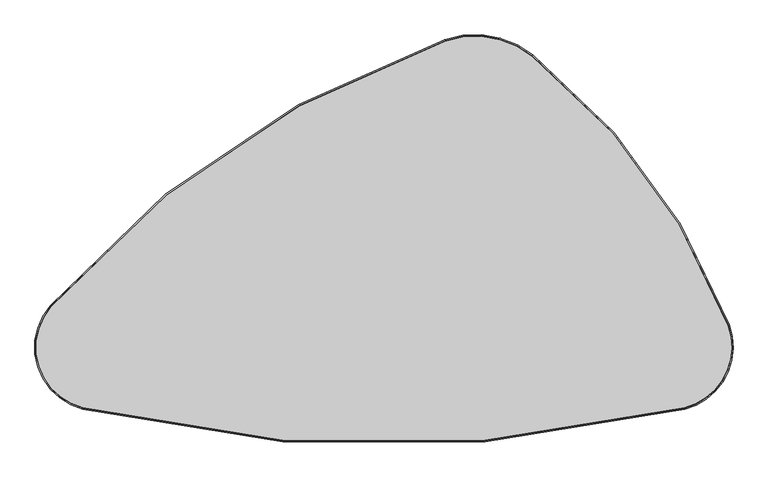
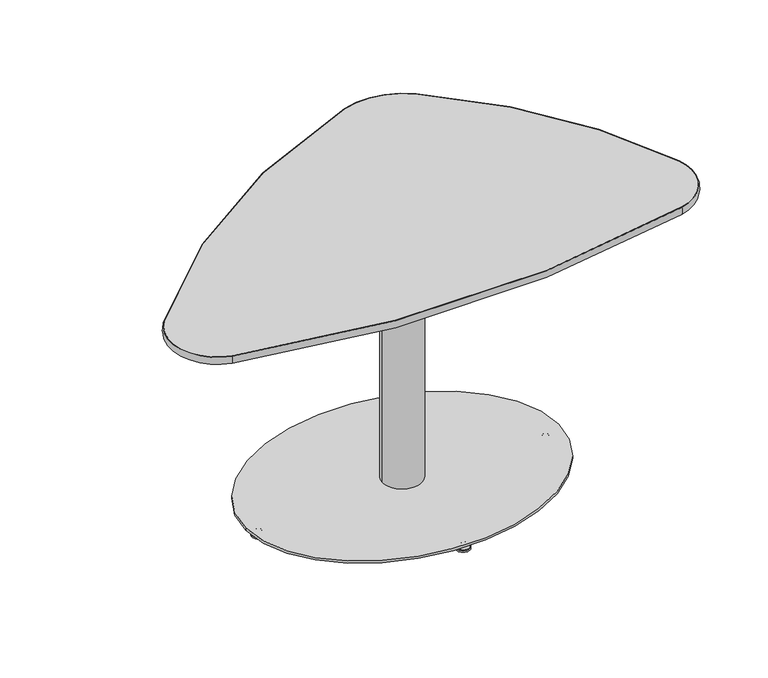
"""IFC4 building model written with IfcOpenShell, lengths in millimetres: furniture geometry, SmithSystem_AM_Table_Education_Flowform_LearnLounge_OffsetTriangle : NoPower."""

from ifc_helpers import new_model, si_unit, point, frame, frame_2d, origin, origin_2d, place, context, project, spatial, polyline, circle_curve, ellipse_curve, trimmed, segment, composite_curve, outline, extrude, faceted_brep, source, transform, mapped, element, save
from ifc_brep_helpers import plane_surface, cylinder_surface, revolved_surface, extruded_surface, advanced_brep


def furniture_8fbb2c6f(model_context):
    return source(origin(), model_context, "Body", "SolidModel", [
        advanced_brep(
        [(668.593477, -87.8228536, 696.5415682), (584.584586, -247.3030544, 696.5415682), (584.584586, -247.3030544, 715.5915682), (668.593477, -87.8228536, 715.5915682), (669.5646222, -87.4587262, 715.5915682), (584.8335504, -248.3098953, 715.5915682), (584.8335504, -248.3098953, 696.5415682), (669.5646222, -87.4587262, 696.5415682), (288.0644203, 436.0870968, 696.5415682), (288.0644203, 436.0870968, 715.5915682), (288.7110571, 436.8980054, 715.5915682), (288.7110571, 436.8980054, 696.5415682), (119.672035, 465.305891, 696.5415682), (119.672035, 465.305891, 715.5915682), (119.3363841, 466.2872423, 715.5915682), (119.3363841, 466.2872423, 696.5415682), (-646.768384, -51.1270329, 696.5415682), (-646.768384, -51.1270329, 715.5915682), (-647.5518849, -50.4474461, 715.5915682), (-647.5518849, -50.4474461, 696.5415682), (-584.5874259, -247.3035965, 696.5415682), (-584.5874259, -247.3035965, 715.5915682), (-584.8363894, -248.3104376, 715.5915682), (-584.8363894, -248.3104376, 696.5415682)],
        [
            (0, 1, circle_curve(frame((555.6233734, -130.1805943, 696.5415682), z_axis=(0.0, 0.0, -1.0), x_axis=(0.24004320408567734, -0.9707622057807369, 0.0)), 120.65)),
            (1, 2),
            (2, 3, circle_curve(frame((555.6233734, -130.1805943, 715.5915682), z_axis=(0.0, 0.0, 1.0), x_axis=(0.24004320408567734, -0.9707622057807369, 0.0)), 120.65)),
            (3, 0),
            (4, 5, circle_curve(frame((555.6233734, -130.1805943, 715.5915682), z_axis=(0.0, 0.0, -1.0), x_axis=(0.24004320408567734, -0.9707622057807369, 0.0)), 121.6871653)),
            (5, 6, circle_curve(frame((579.659921, -227.3871456, 706.0665682), z_axis=(0.9707622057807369, 0.2400432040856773, 0.0), x_axis=(-0.2400432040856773, 0.9707622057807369, 0.0)), 23.563818)),
            (6, 7, circle_curve(frame((555.6233734, -130.1805943, 696.5415682), z_axis=(0.0, 0.0, 1.0), x_axis=(0.24004320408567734, -0.9707622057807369, 0.0)), 121.6871653)),
            (7, 4, circle_curve(frame((649.3836493, -95.0255106, 706.0665682), z_axis=(0.3510794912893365, -0.9363456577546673, 0.0), x_axis=(-0.9363456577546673, -0.3510794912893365, 0.0)), 23.563818)),
            (8, 0, circle_curve(frame((-470.2027839, -514.8104822, 696.5415682), z_axis=(0.0, 0.0, -1.0), x_axis=(0.9363456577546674, 0.35107949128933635, 0.0)), 1216.2135334)),
            (3, 9, circle_curve(frame((-470.2027839, -514.8104822, 715.5915682), z_axis=(0.0, 0.0, 1.0), x_axis=(0.9363456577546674, 0.35107949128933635, 0.0)), 1216.2135334)),
            (9, 8),
            (10, 4, circle_curve(frame((-470.2027839, -514.8104822, 715.5915682), z_axis=(0.0, 0.0, -1.0), x_axis=(0.9363456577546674, 0.35107949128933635, 0.0)), 1217.2506987)),
            (7, 11, circle_curve(frame((-470.2027839, -514.8104822, 696.5415682), z_axis=(0.0, 0.0, 1.0), x_axis=(0.9363456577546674, 0.35107949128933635, 0.0)), 1217.2506987)),
            (11, 10, circle_curve(frame((275.2735613, 420.0468451, 706.0665682), z_axis=(0.7818508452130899, -0.6234655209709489, 0.0), x_axis=(-0.6234655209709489, -0.7818508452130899, 0.0)), 23.563818)),
            (12, 8, circle_curve(frame((177.2122507, 297.0740165, 696.5415682), z_axis=(0.0, 0.0, -1.0), x_axis=(0.6234655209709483, 0.7818508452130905, 0.0)), 177.8)),
            (9, 13, circle_curve(frame((177.2122507, 297.0740165, 715.5915682), z_axis=(0.0, 0.0, 1.0), x_axis=(0.6234655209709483, 0.7818508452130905, 0.0)), 177.8)),
            (13, 12),
            (14, 10, circle_curve(frame((177.2122507, 297.0740165, 715.5915682), z_axis=(0.0, 0.0, -1.0), x_axis=(0.6234655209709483, 0.7818508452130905, 0.0)), 178.8371653)),
            (11, 15, circle_curve(frame((177.2122507, 297.0740165, 696.5415682), z_axis=(0.0, 0.0, 1.0), x_axis=(0.6234655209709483, 0.7818508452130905, 0.0)), 178.8371653)),
            (15, 14, circle_curve(frame((126.3114069, 445.8941809, 706.0665682), z_axis=(0.9461860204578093, 0.3236232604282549, 0.0), x_axis=(0.3236232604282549, -0.9461860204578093, 0.0)), 23.563818)),
            (16, 12, circle_curve(frame((694.0971801, -1214.1563375, 696.5415682), z_axis=(0.0, 0.0, -1.0), x_axis=(-0.3236232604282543, 0.9461860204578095, 0.0)), 1774.9810208)),
            (13, 17, circle_curve(frame((694.0971801, -1214.1563375, 715.5915682), z_axis=(0.0, 0.0, 1.0), x_axis=(-0.3236232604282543, 0.9461860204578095, 0.0)), 1774.9810208)),
            (17, 16),
            (18, 14, circle_curve(frame((694.0971801, -1214.1563375, 715.5915682), z_axis=(0.0, 0.0, -1.0), x_axis=(-0.3236232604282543, 0.9461860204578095, 0.0)), 1776.0181861)),
            (15, 19, circle_curve(frame((694.0971801, -1214.1563375, 696.5415682), z_axis=(0.0, 0.0, 1.0), x_axis=(-0.3236232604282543, 0.9461860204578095, 0.0)), 1776.0181861)),
            (19, 18, circle_curve(frame((-631.270272, -64.5696619, 706.0665682), z_axis=(0.6552347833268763, 0.7554252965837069, 0.0), x_axis=(0.7554252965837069, -0.6552347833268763, 0.0)), 23.563818)),
            (20, 16, circle_curve(frame((-555.6263219, -130.1811095, 696.5415682), z_axis=(0.0, 0.0, -1.0), x_axis=(-0.7554252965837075, 0.6552347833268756, 0.0)), 120.65)),
            (17, 21, circle_curve(frame((-555.6263219, -130.1811095, 715.5915682), z_axis=(0.0, 0.0, 1.0), x_axis=(-0.7554252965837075, 0.6552347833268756, 0.0)), 120.65)),
            (21, 20),
            (22, 18, circle_curve(frame((-555.6263219, -130.1811095, 715.5915682), z_axis=(0.0, 0.0, -1.0), x_axis=(-0.7554252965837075, 0.6552347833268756, 0.0)), 121.6871653)),
            (19, 23, circle_curve(frame((-555.6263219, -130.1811095, 696.5415682), z_axis=(0.0, 0.0, 1.0), x_axis=(-0.7554252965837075, 0.6552347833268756, 0.0)), 121.6871653)),
            (23, 22, circle_curve(frame((-579.6627795, -227.3876831, 706.0665682), z_axis=(-0.9707624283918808, 0.24004230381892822, 0.0), x_axis=(0.24004230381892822, 0.9707624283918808, 0.0)), 23.563818)),
            (1, 20, circle_curve(frame((-0.0025162, 2116.8341305, 696.5415682), z_axis=(0.0, 0.0, -1.0), x_axis=(-0.24004230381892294, -0.970762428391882, 0.0)), 2435.3411894)),
            (21, 2, circle_curve(frame((-0.0025162, 2116.8341305, 715.5915682), z_axis=(0.0, 0.0, 1.0), x_axis=(-0.24004230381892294, -0.970762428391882, 0.0)), 2435.3411894)),
            (6, 23, circle_curve(frame((-0.0025162, 2116.8341305, 696.5415682), z_axis=(0.0, 0.0, -1.0), x_axis=(-0.24004230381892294, -0.970762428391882, 0.0)), 2436.3783547)),
            (5, 22, circle_curve(frame((-0.0025162, 2116.8341305, 715.5915682), z_axis=(0.0, 0.0, -1.0), x_axis=(-0.24004230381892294, -0.970762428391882, 0.0)), 2436.3783547)),
        ],
        [
            revolved_surface(polyline([(584.584585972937, -247.30305442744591, 715.5915682), (584.584585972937, -247.30305442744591, 696.5415682)]), (555.6233734, -130.1805943, 0.0), (0.0, 0.0, 1.0)),
            revolved_surface(trimmed(ellipse_curve(frame((579.659921, -227.3871456, 706.0665682), z_axis=(-0.9707622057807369, -0.2400432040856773, 0.0), x_axis=(-0.2400432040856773, 0.9707622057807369, 0.0)), 23.563818, 23.563818), [point((584.8335504, -248.3098953, 696.5415682))], [point((584.8335504, -248.3098953, 715.5915682))], True, "CARTESIAN"), (555.6233734, -130.1805943, 0.0), (0.0, 0.0, 1.0)),
            revolved_surface(polyline([(668.593477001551, -87.82285359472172, 715.5915682), (668.593477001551, -87.82285359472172, 696.5415682)]), (-470.2027839, -514.8104822, 0.0), (0.0, 0.0, 1.0)),
            revolved_surface(trimmed(ellipse_curve(frame((649.3836493, -95.0255106, 706.0665682), z_axis=(0.3510794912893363, -0.9363456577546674, 0.0), x_axis=(-0.9363456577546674, -0.3510794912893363, 0.0)), 23.563818, 23.563818), [point((669.5646222, -87.4587262, 696.5415682))], [point((669.5646222, -87.4587262, 715.5915682))], True, "CARTESIAN"), (-470.2027839, -514.8104822, 0.0), (0.0, 0.0, 1.0)),
            revolved_surface(polyline([(288.0644203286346, 436.0870967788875, 715.5915682), (288.0644203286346, 436.0870967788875, 696.5415682)]), (177.2122507, 297.0740165, 0.0), (0.0, 0.0, 1.0)),
            revolved_surface(trimmed(ellipse_curve(frame((275.2735613, 420.0468451, 706.0665682), z_axis=(0.7818508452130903, -0.6234655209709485, 0.0), x_axis=(-0.6234655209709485, -0.7818508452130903, 0.0)), 23.563818, 23.563818), [point((288.7110571, 436.8980054, 696.5415682))], [point((288.7110571, 436.8980054, 715.5915682))], True, "CARTESIAN"), (177.2122507, 297.0740165, 0.0), (0.0, 0.0, 1.0)),
            revolved_surface(polyline([(119.67203495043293, 465.3058909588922, 715.5915682), (119.67203495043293, 465.3058909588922, 696.5415682)]), (694.0971801, -1214.1563375, 0.0), (0.0, 0.0, 1.0)),
            revolved_surface(trimmed(ellipse_curve(frame((126.3114069, 445.8941809, 706.0665682), z_axis=(0.9461860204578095, 0.3236232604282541, 0.0), x_axis=(0.3236232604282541, -0.9461860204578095, 0.0)), 23.563818, 23.563818), [point((119.3363841, 466.2872423, 696.5415682))], [point((119.3363841, 466.2872423, 715.5915682))], True, "CARTESIAN"), (694.0971801, -1214.1563375, 0.0), (0.0, 0.0, 1.0)),
            revolved_surface(polyline([(-646.7683839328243, -51.127032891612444, 715.5915682), (-646.7683839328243, -51.127032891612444, 696.5415682)]), (-555.6263219, -130.1811095, 0.0), (0.0, 0.0, 1.0)),
            revolved_surface(trimmed(ellipse_curve(frame((-631.270272, -64.5696619, 706.0665682), z_axis=(0.6552347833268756, 0.7554252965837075, 0.0), x_axis=(0.7554252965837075, -0.6552347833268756, 0.0)), 23.563818, 23.563818), [point((-647.5518849, -50.4474461, 696.5415682))], [point((-647.5518849, -50.4474461, 715.5915682))], True, "CARTESIAN"), (-555.6263219, -130.1811095, 0.0), (0.0, 0.0, 1.0)),
            revolved_surface(polyline([(-584.5874258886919, -247.30359648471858, 715.5915682), (-584.5874258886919, -247.30359648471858, 696.5415682)]), (-0.0025162, 2116.8341305, 0.0), (0.0, 0.0, 1.0)),
            plane_surface(frame((-0.0025162, 2116.8341305, 696.5415682), z_axis=(0.0, 0.0, -1.0000000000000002), x_axis=(-0.24004230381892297, -0.9707624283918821, 0.0))),
            revolved_surface(trimmed(ellipse_curve(frame((-579.6627795, -227.3876831, 706.0665682), z_axis=(-0.970762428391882, 0.24004230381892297, 0.0), x_axis=(0.24004230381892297, 0.970762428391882, 0.0)), 23.563818, 23.563818), [point((-584.8363894, -248.3104376, 696.5415682))], [point((-584.8363894, -248.3104376, 715.5915682))], True, "CARTESIAN"), (-0.0025162, 2116.8341305, 0.0), (0.0, 0.0, 1.0)),
            plane_surface(frame((-0.0025162, 2116.8341305, 715.5915682), z_axis=(0.0, 0.0, 1.0000000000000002), x_axis=(-0.24004230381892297, -0.9707624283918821, 0.0))),
        ],
        [
            (0, [[1, 2, 3, 4]]),
            (1, [[5, 6, 7, 8]]),
            (2, [[9, -4, 10, 11]]),
            (3, [[12, -8, 13, 14]]),
            (4, [[15, -11, 16, 17]]),
            (5, [[18, -14, 19, 20]]),
            (6, [[21, -17, 22, 23]]),
            (7, [[24, -20, 25, 26]]),
            (8, [[27, -23, 28, 29]]),
            (9, [[30, -26, 31, 32]]),
            (10, [[33, -29, 34, -2]]),
            (11, [[35, -31, -25, -19, -13, -7], [-21, -27, -33, -1, -9, -15]]),
            (12, [[36, -32, -35, -6]]),
            (13, [[-24, -30, -36, -5, -12, -18], [-34, -28, -22, -16, -10, -3]]),
        ],
    ),
        extrude(outline(composite_curve([segment(trimmed(circle_curve(frame_2d((177.2122507, 297.0740165)), 177.8), [point((119.672035, 465.305891))], [point((288.0644203, 436.0870968))], False, "CARTESIAN"), True, "CONTINUOUS"), segment(trimmed(circle_curve(frame_2d((-470.2027839, -514.8104822)), 1216.2135334), [point((288.0644203, 436.0870968))], [point((668.593477, -87.8228536))], False, "CARTESIAN"), True, "CONTINUOUS"), segment(trimmed(circle_curve(frame_2d((555.6233734, -130.1805943)), 120.65), [point((668.593477, -87.8228536))], [point((584.584586, -247.3030544))], False, "CARTESIAN"), True, "CONTINUOUS"), segment(trimmed(circle_curve(frame_2d((-0.0025162, 2116.8341305)), 2435.3411894), [point((584.584586, -247.3030544))], [point((-584.5874259, -247.3035965))], False, "CARTESIAN"), True, "CONTINUOUS"), segment(trimmed(circle_curve(frame_2d((-555.6263219, -130.1811095)), 120.65), [point((-584.5874259, -247.3035965))], [point((-646.768384, -51.1270329))], False, "CARTESIAN"), True, "CONTINUOUS"), segment(trimmed(circle_curve(frame_2d((694.0971801, -1214.1563375)), 1774.9810208), [point((-646.768384, -51.1270329))], [point((119.672035, 465.305891))], False, "CARTESIAN"), True, "CONTINUOUS")], self_intersect=False)), frame((0.0, 0.0, 696.5415682), z_axis=(0.0, 0.0, 1.0), x_axis=(1.0, 0.0, 0.0)), (0.0, 0.0, 1.0), 19.05),
        faceted_brep([(84.6581956, 84.4295951, 688.0173792), (-84.198458, 84.4295951, 688.0173792), (-84.198458, -84.427063, 688.0173792), (84.6581956, -84.427063, 688.0173792), (66.4864882, 66.33972, 665.6324083), (66.4864882, -66.3371788, 665.6324083), (-66.1085784, -66.3371788, 665.6324083), (-66.1085784, 66.33972, 665.6324083)], [[[0, 1, 2, 3]], [[4, 5, 6, 7]], [[4, 7, 1, 0]], [[7, 6, 2, 1]], [[6, 5, 3, 2]], [[5, 4, 0, 3]]]),
        extrude(outline(polyline([(117.706142, 117.4775461), (117.706142, -117.4750004), (-117.243861, -117.4750004), (-117.243861, 117.4775461), (117.706142, 117.4775461)])), frame((0.0, 0.0, 688.0173792), z_axis=(0.0, 0.0, 1.0), x_axis=(1.0, 0.0, 0.0)), (0.0, 0.0, 1.0), 3.0226353),
        extrude(outline(composite_curve([segment(trimmed(circle_curve(origin_2d(), 51.0307352), [point((-51.0307352, 0.0))], [point((51.0307352, 0.0))], False, "CARTESIAN"), True, "CONTINUOUS"), segment(trimmed(circle_curve(origin_2d(), 51.0307352), [point((51.0307352, 0.0))], [point((-51.0307352, 0.0))], False, "CARTESIAN"), True, "CONTINUOUS")], self_intersect=False), holes=[composite_curve([segment(trimmed(circle_curve(origin_2d(), 49.8623383), [point((-49.8623383, 0.0))], [point((49.8623383, 0.0))], True, "CARTESIAN"), True, "CONTINUOUS"), segment(trimmed(circle_curve(origin_2d(), 49.8623383), [point((49.8623383, 0.0))], [point((-49.8623383, 0.0))], True, "CARTESIAN"), True, "CONTINUOUS")], self_intersect=False)]), frame((0.0, 0.0, 30.4800005), z_axis=(0.0, 0.0, 1.0), x_axis=(1.0, 0.0, 0.0)), (0.0, 0.0, 1.0), 635.1524079),
        extrude(outline(composite_curve([segment(trimmed(circle_curve(frame_2d((381.2286319, 49.6219644)), 25.4), [point((390.780639, 73.1574517))], [point((406.6286319, 49.6219644))], False, "CARTESIAN"), True, "CONTINUOUS"), segment(polyline([(406.6286319, 49.6219644), (406.6286319, -49.6194278)]), True, "CONTINUOUS"), segment(trimmed(circle_curve(frame_2d((381.2286319, -49.6194278)), 25.4), [point((406.6286319, -49.6194278))], [point((390.7806401, -73.1549146))], False, "CARTESIAN"), True, "CONTINUOUS"), segment(trimmed(circle_curve(frame_2d((0.2298915, 889.135086)), 1038.52392), [point((390.7806401, -73.1549146))], [point((-393.4994358, -71.8587481))], False, "CARTESIAN"), True, "CONTINUOUS"), segment(trimmed(circle_curve(frame_2d((-381.2286319, -49.6194278)), 25.4), [point((-393.4994358, -71.8587481))], [point((-406.6286319, -49.6194278))], False, "CARTESIAN"), True, "CONTINUOUS"), segment(polyline([(-406.6286319, -49.6194278), (-406.6286319, 49.6219644)]), True, "CONTINUOUS"), segment(trimmed(circle_curve(frame_2d((-381.2286319, 49.6219644)), 25.4), [point((-406.6286319, 49.6219644))], [point((-387.948128, 74.1170327))], False, "CARTESIAN"), True, "CONTINUOUS"), segment(trimmed(circle_curve(frame_2d((0.2298915, -889.1326731)), 1038.5240346), [point((-387.948128, 74.1170327))], [point((390.780639, 73.1574517))], False, "CARTESIAN"), True, "CONTINUOUS")], self_intersect=False), holes=[composite_curve([segment(trimmed(circle_curve(frame_2d((-386.0367929, 53.1685479)), 6.1861697), [point((-392.2229625, 53.1685479))], [point((-379.8506232, 53.1685479))], True, "CARTESIAN"), True, "CONTINUOUS"), segment(trimmed(circle_curve(frame_2d((-386.0367929, 53.1685479)), 6.1861697), [point((-379.8506232, 53.1685479))], [point((-392.2229625, 53.1685479))], True, "CARTESIAN"), True, "CONTINUOUS")], self_intersect=False), composite_curve([segment(trimmed(circle_curve(frame_2d((-292.9890022, 87.2680426)), 6.1861697), [point((-299.1751719, 87.2680426))], [point((-286.8028325, 87.2680426))], True, "CARTESIAN"), True, "CONTINUOUS"), segment(trimmed(circle_curve(frame_2d((-292.9890022, 87.2680426)), 6.1861697), [point((-286.8028325, 87.2680426))], [point((-299.1751719, 87.2680426))], True, "CARTESIAN"), True, "CONTINUOUS")], self_intersect=False), composite_curve([segment(trimmed(circle_curve(frame_2d((-196.8017411, 111.1262702)), 6.1861697), [point((-202.9879108, 111.1262702))], [point((-190.6155714, 111.1262702))], True, "CARTESIAN"), True, "CONTINUOUS"), segment(trimmed(circle_curve(frame_2d((-196.8017411, 111.1262702)), 6.1861697), [point((-190.6155714, 111.1262702))], [point((-202.9879108, 111.1262702))], True, "CARTESIAN"), True, "CONTINUOUS")], self_intersect=False), composite_curve([segment(trimmed(circle_curve(frame_2d((-98.7526568, 125.5331488)), 6.1861697), [point((-104.9388265, 125.5331488))], [point((-92.5664872, 125.5331488))], True, "CARTESIAN"), True, "CONTINUOUS"), segment(trimmed(circle_curve(frame_2d((-98.7526568, 125.5331488)), 6.1861697), [point((-92.5664872, 125.5331488))], [point((-104.9388265, 125.5331488))], True, "CARTESIAN"), True, "CONTINUOUS")], self_intersect=False), composite_curve([segment(trimmed(circle_curve(frame_2d((0.0, 130.2772487)), 6.1861697), [point((-6.1861697, 130.2772487))], [point((6.1861697, 130.2772487))], True, "CARTESIAN"), True, "CONTINUOUS"), segment(trimmed(circle_curve(frame_2d((0.0, 130.2772487)), 6.1861697), [point((6.1861697, 130.2772487))], [point((-6.1861697, 130.2772487))], True, "CARTESIAN"), True, "CONTINUOUS")], self_intersect=False), composite_curve([segment(trimmed(circle_curve(frame_2d((386.0367929, 53.1685479)), 6.1861697), [point((379.8506232, 53.1685479))], [point((392.2229625, 53.1685479))], True, "CARTESIAN"), True, "CONTINUOUS"), segment(trimmed(circle_curve(frame_2d((386.0367929, 53.1685479)), 6.1861697), [point((392.2229625, 53.1685479))], [point((379.8506232, 53.1685479))], True, "CARTESIAN"), True, "CONTINUOUS")], self_intersect=False), composite_curve([segment(trimmed(circle_curve(frame_2d((292.9890022, 87.2680426)), 6.1861697), [point((286.8028325, 87.2680426))], [point((299.1751719, 87.2680426))], True, "CARTESIAN"), True, "CONTINUOUS"), segment(trimmed(circle_curve(frame_2d((292.9890022, 87.2680426)), 6.1861697), [point((299.1751719, 87.2680426))], [point((286.8028325, 87.2680426))], True, "CARTESIAN"), True, "CONTINUOUS")], self_intersect=False), composite_curve([segment(trimmed(circle_curve(frame_2d((196.8017411, 111.1262702)), 6.1861697), [point((190.6155714, 111.1262702))], [point((202.9879108, 111.1262702))], True, "CARTESIAN"), True, "CONTINUOUS"), segment(trimmed(circle_curve(frame_2d((196.8017411, 111.1262702)), 6.1861697), [point((202.9879108, 111.1262702))], [point((190.6155714, 111.1262702))], True, "CARTESIAN"), True, "CONTINUOUS")], self_intersect=False), composite_curve([segment(trimmed(circle_curve(frame_2d((98.7526568, 125.5331488)), 6.1861697), [point((92.5664872, 125.5331488))], [point((104.9388265, 125.5331488))], True, "CARTESIAN"), True, "CONTINUOUS"), segment(trimmed(circle_curve(frame_2d((98.7526568, 125.5331488)), 6.1861697), [point((104.9388265, 125.5331488))], [point((92.5664872, 125.5331488))], True, "CARTESIAN"), True, "CONTINUOUS")], self_intersect=False), composite_curve([segment(trimmed(circle_curve(frame_2d((-386.0367929, -53.1685479)), 6.1861697), [point((-392.2229625, -53.1685479))], [point((-379.8506232, -53.1685479))], True, "CARTESIAN"), True, "CONTINUOUS"), segment(trimmed(circle_curve(frame_2d((-386.0367929, -53.1685479)), 6.1861697), [point((-379.8506232, -53.1685479))], [point((-392.2229625, -53.1685479))], True, "CARTESIAN"), True, "CONTINUOUS")], self_intersect=False), composite_curve([segment(trimmed(circle_curve(frame_2d((-292.9890022, -87.2680426)), 6.1861697), [point((-299.1751719, -87.2680426))], [point((-286.8028325, -87.2680426))], True, "CARTESIAN"), True, "CONTINUOUS"), segment(trimmed(circle_curve(frame_2d((-292.9890022, -87.2680426)), 6.1861697), [point((-286.8028325, -87.2680426))], [point((-299.1751719, -87.2680426))], True, "CARTESIAN"), True, "CONTINUOUS")], self_intersect=False), composite_curve([segment(trimmed(circle_curve(frame_2d((-196.8017411, -111.1262702)), 6.1861697), [point((-202.9879108, -111.1262702))], [point((-190.6155714, -111.1262702))], True, "CARTESIAN"), True, "CONTINUOUS"), segment(trimmed(circle_curve(frame_2d((-196.8017411, -111.1262702)), 6.1861697), [point((-190.6155714, -111.1262702))], [point((-202.9879108, -111.1262702))], True, "CARTESIAN"), True, "CONTINUOUS")], self_intersect=False), composite_curve([segment(trimmed(circle_curve(frame_2d((-98.7526568, -125.5331488)), 6.1861697), [point((-104.9388265, -125.5331488))], [point((-92.5664872, -125.5331488))], True, "CARTESIAN"), True, "CONTINUOUS"), segment(trimmed(circle_curve(frame_2d((-98.7526568, -125.5331488)), 6.1861697), [point((-92.5664872, -125.5331488))], [point((-104.9388265, -125.5331488))], True, "CARTESIAN"), True, "CONTINUOUS")], self_intersect=False), composite_curve([segment(trimmed(circle_curve(frame_2d((0.0, -130.2772487)), 6.1861697), [point((-6.1861697, -130.2772487))], [point((6.1861697, -130.2772487))], True, "CARTESIAN"), True, "CONTINUOUS"), segment(trimmed(circle_curve(frame_2d((0.0, -130.2772487)), 6.1861697), [point((6.1861697, -130.2772487))], [point((-6.1861697, -130.2772487))], True, "CARTESIAN"), True, "CONTINUOUS")], self_intersect=False), composite_curve([segment(trimmed(circle_curve(frame_2d((386.0367929, -53.1685479)), 6.1861697), [point((379.8506232, -53.1685479))], [point((392.2229625, -53.1685479))], True, "CARTESIAN"), True, "CONTINUOUS"), segment(trimmed(circle_curve(frame_2d((386.0367929, -53.1685479)), 6.1861697), [point((392.2229625, -53.1685479))], [point((379.8506232, -53.1685479))], True, "CARTESIAN"), True, "CONTINUOUS")], self_intersect=False), composite_curve([segment(trimmed(circle_curve(frame_2d((292.9890022, -87.2680426)), 6.1861697), [point((286.8028325, -87.2680426))], [point((299.1751719, -87.2680426))], True, "CARTESIAN"), True, "CONTINUOUS"), segment(trimmed(circle_curve(frame_2d((292.9890022, -87.2680426)), 6.1861697), [point((299.1751719, -87.2680426))], [point((286.8028325, -87.2680426))], True, "CARTESIAN"), True, "CONTINUOUS")], self_intersect=False), composite_curve([segment(trimmed(circle_curve(frame_2d((196.8017411, -111.1262702)), 6.1861697), [point((190.6155714, -111.1262702))], [point((202.9879108, -111.1262702))], True, "CARTESIAN"), True, "CONTINUOUS"), segment(trimmed(circle_curve(frame_2d((196.8017411, -111.1262702)), 6.1861697), [point((202.9879108, -111.1262702))], [point((190.6155714, -111.1262702))], True, "CARTESIAN"), True, "CONTINUOUS")], self_intersect=False), composite_curve([segment(trimmed(circle_curve(frame_2d((98.7526568, -125.5331488)), 6.1861697), [point((92.5664872, -125.5331488))], [point((104.9388265, -125.5331488))], True, "CARTESIAN"), True, "CONTINUOUS"), segment(trimmed(circle_curve(frame_2d((98.7526568, -125.5331488)), 6.1861697), [point((104.9388265, -125.5331488))], [point((92.5664872, -125.5331488))], True, "CARTESIAN"), True, "CONTINUOUS")], self_intersect=False)]), frame((0.0, 0.0, 691.0400145), z_axis=(0.0, 0.0, 1.0), x_axis=(1.0, 0.0, 0.0)), (0.0, 0.0, 1.0), 5.5015537),
        advanced_brep(
        [(0.0, 274.7331576, 0.0), (17.7495343, 274.7331576, 0.0), (-17.7495343, 274.7331576, 0.0), (17.7495343, 274.7331576, 3.570799), (-17.7495343, 274.7331576, 3.570799), (16.567463, 274.7331576, 5.0466319), (-16.567463, 274.7331576, 5.0466319), (7.9298575, 274.7331576, 10.1285507), (-7.9298575, 274.7331576, 10.1285507), (7.9298575, 274.7331576, 12.7000004), (-7.9298575, 274.7331576, 12.7000004), (5.3644618, 274.7331576, 12.7000004), (-5.3644618, 274.7331576, 12.7000004), (5.3644618, 274.7331576, 17.8079394), (-5.3644618, 274.7331576, 17.8079394), (0.0, 274.7331576, 17.8079394)],
        [
            (0, 1),
            (1, 2, circle_curve(frame((0.0, 274.7331576, 0.0), z_axis=(0.0, 0.0, -1.0), x_axis=(1.0, 0.0, 0.0)), 17.7495343)),
            (2, 0),
            (2, 1, circle_curve(frame((0.0, 274.7331576, 0.0), z_axis=(0.0, 0.0, -1.0), x_axis=(1.0, 0.0, 0.0)), 17.7495343)),
            (1, 3),
            (3, 4, circle_curve(frame((0.0, 274.7331576, 3.570799), z_axis=(0.0, 0.0, -1.0), x_axis=(1.0, 0.0, 0.0)), 17.7495343)),
            (4, 2),
            (4, 3, circle_curve(frame((0.0, 274.7331576, 3.570799), z_axis=(0.0, 0.0, -1.0), x_axis=(1.0, 0.0, 0.0)), 17.7495343)),
            (3, 5, circle_curve(frame((16.2371994, 274.7331576, 3.570799), z_axis=(0.0, -1.0, 0.0), x_axis=(1.0, 0.0, 0.0)), 1.5123349)),
            (5, 6, circle_curve(frame((0.0, 274.7331576, 5.0466319), z_axis=(0.0, 0.0, -1.0), x_axis=(1.0, 0.0, 0.0)), 16.567463)),
            (6, 4, circle_curve(frame((-16.2371994, 274.7331576, 3.570799), z_axis=(0.0, -1.0, 0.0), x_axis=(-1.0, 0.0, 0.0)), 1.5123349)),
            (6, 5, circle_curve(frame((0.0, 274.7331576, 5.0466319), z_axis=(0.0, 0.0, -1.0), x_axis=(1.0, 0.0, 0.0)), 16.567463)),
            (5, 7, circle_curve(frame((20.1361155, 274.7331576, 20.9936944), z_axis=(0.0, 1.0, 0.0), x_axis=(1.0, 0.0, 0.0)), 16.3414834)),
            (7, 8, circle_curve(frame((0.0, 274.7331576, 10.1285507), z_axis=(0.0, 0.0, -1.0), x_axis=(1.0, 0.0, 0.0)), 7.9298575)),
            (8, 6, circle_curve(frame((-20.1361155, 274.7331576, 20.9936944), z_axis=(0.0, 1.0, 0.0), x_axis=(-1.0, 0.0, 0.0)), 16.3414834)),
            (8, 7, circle_curve(frame((0.0, 274.7331576, 10.1285507), z_axis=(0.0, 0.0, -1.0), x_axis=(1.0, 0.0, 0.0)), 7.9298575)),
            (7, 9, circle_curve(frame((7.33499, 274.7331576, 11.4142755), z_axis=(0.0, -1.0, 0.0), x_axis=(1.0, 0.0, 0.0)), 1.4166707)),
            (9, 10, circle_curve(frame((0.0, 274.7331576, 12.7000004), z_axis=(0.0, 0.0, -1.0), x_axis=(1.0, 0.0, 0.0)), 7.9298575)),
            (10, 8, circle_curve(frame((-7.33499, 274.7331576, 11.4142755), z_axis=(0.0, -1.0, 0.0), x_axis=(-1.0, 0.0, 0.0)), 1.4166707)),
            (10, 9, circle_curve(frame((0.0, 274.7331576, 12.7000004), z_axis=(0.0, 0.0, -1.0), x_axis=(1.0, 0.0, 0.0)), 7.9298575)),
            (9, 11),
            (11, 12, circle_curve(frame((0.0, 274.7331576, 12.7000004), z_axis=(0.0, 0.0, -1.0), x_axis=(1.0, 0.0, 0.0)), 5.3644618)),
            (12, 10),
            (12, 11, circle_curve(frame((0.0, 274.7331576, 12.7000004), z_axis=(0.0, 0.0, -1.0), x_axis=(1.0, 0.0, 0.0)), 5.3644618)),
            (11, 13),
            (13, 14, circle_curve(frame((0.0, 274.7331576, 17.8079394), z_axis=(0.0, 0.0, -1.0), x_axis=(1.0, 0.0, 0.0)), 5.3644618)),
            (14, 12),
            (14, 13, circle_curve(frame((0.0, 274.7331576, 17.8079394), z_axis=(0.0, 0.0, -1.0), x_axis=(1.0, 0.0, 0.0)), 5.3644618)),
            (13, 15),
            (15, 14),
        ],
        [
            plane_surface(frame((0.0, 274.7331576, 0.0), z_axis=(0.0, 0.0, -1.0), x_axis=(1.0, 0.0, 0.0))),
            cylinder_surface(frame((0.0, 274.7331576, 24.1299997), z_axis=(0.0, 0.0, -1.0), x_axis=(1.0, 0.0, 0.0)), 17.7495343),
            revolved_surface(trimmed(ellipse_curve(frame((16.2371994, 274.7331576, 3.570799), z_axis=(0.0, 1.0, 0.0), x_axis=(1.0, 0.0, 0.0)), 1.5123349, 1.5123349), [point((16.567463, 274.7331576, 5.0466319))], [point((17.7495343, 274.7331576, 3.570799))], True, "CARTESIAN"), (0.0, 274.7331576, 24.1299997), (0.0, 0.0, -1.0)),
            revolved_surface(trimmed(ellipse_curve(frame((20.1361155, 274.7331576, 20.9936944), z_axis=(0.0, -1.0, 0.0), x_axis=(1.0, 0.0, 0.0)), 16.3414834, 16.3414834), [point((7.9298575, 274.7331576, 10.1285507))], [point((16.567463, 274.7331576, 5.0466319))], True, "CARTESIAN"), (0.0, 274.7331576, 24.1299997), (0.0, 0.0, -1.0)),
            revolved_surface(trimmed(ellipse_curve(frame((7.33499, 274.7331576, 11.4142755), z_axis=(0.0, 1.0, 0.0), x_axis=(1.0, 0.0, 0.0)), 1.4166707, 1.4166707), [point((7.9298575, 274.7331576, 12.7000004))], [point((7.9298575, 274.7331576, 10.1285507))], True, "CARTESIAN"), (0.0, 274.7331576, 24.1299997), (0.0, 0.0, -1.0)),
            plane_surface(frame((0.0, 274.7331576, 12.7000004), z_axis=(0.0, 0.0, 1.0), x_axis=(1.0, 0.0, 0.0))),
            cylinder_surface(frame((0.0, 274.7331576, 24.1299997), z_axis=(0.0, 0.0, -1.0), x_axis=(1.0, 0.0, 0.0)), 5.3644618),
            plane_surface(frame((0.0, 274.7331576, 17.8079394), z_axis=(0.0, 0.0, 1.0), x_axis=(1.0, 0.0, 0.0))),
        ],
        [
            (0, [[1, 2, 3]]),
            (0, [[-3, 4, -1]]),
            (1, [[-2, 5, 6, 7]]),
            (1, [[-4, -7, 8, -5]]),
            (2, [[-6, 9, 10, 11]]),
            (2, [[-8, -11, 12, -9]]),
            (3, [[-10, 13, 14, 15]]),
            (3, [[-12, -15, 16, -13]]),
            (4, [[-14, 17, 18, 19]]),
            (4, [[-16, -19, 20, -17]]),
            (5, [[-18, 21, 22, 23]]),
            (5, [[-20, -23, 24, -21]]),
            (6, [[-22, 25, 26, 27]]),
            (6, [[-24, -27, 28, -25]]),
            (7, [[-26, 29, 30]]),
            (7, [[-28, -30, -29]]),
        ],
    ),
        advanced_brep(
        [(-17.7495343, -274.7331576, 0.0), (17.7495343, -274.7331576, 0.0), (0.0, -274.7331576, 0.0), (-17.7495343, -274.7331576, 3.570799), (17.7495343, -274.7331576, 3.570799), (-16.567463, -274.7331576, 5.0466319), (16.567463, -274.7331576, 5.0466319), (-7.9298575, -274.7331576, 10.1285507), (7.9298575, -274.7331576, 10.1285507), (-7.9298575, -274.7331576, 12.7000004), (7.9298575, -274.7331576, 12.7000004), (-5.3644618, -274.7331576, 12.7000004), (5.3644618, -274.7331576, 12.7000004), (-5.3644618, -274.7331576, 17.8079394), (5.3644618, -274.7331576, 17.8079394), (0.0, -274.7331576, 17.8079394)],
        [
            (0, 1, circle_curve(frame((0.0, -274.7331576, 0.0), z_axis=(0.0, 0.0, -1.0), x_axis=(1.0, 0.0, 0.0)), 17.7495343)),
            (1, 2),
            (2, 0),
            (1, 0, circle_curve(frame((0.0, -274.7331576, 0.0), z_axis=(0.0, 0.0, -1.0), x_axis=(1.0, 0.0, 0.0)), 17.7495343)),
            (3, 4, circle_curve(frame((0.0, -274.7331576, 3.570799), z_axis=(0.0, 0.0, -1.0), x_axis=(1.0, 0.0, 0.0)), 17.7495343)),
            (4, 1),
            (0, 3),
            (4, 3, circle_curve(frame((0.0, -274.7331576, 3.570799), z_axis=(0.0, 0.0, -1.0), x_axis=(1.0, 0.0, 0.0)), 17.7495343)),
            (5, 6, circle_curve(frame((0.0, -274.7331576, 5.0466319), z_axis=(0.0, 0.0, -1.0), x_axis=(1.0, 0.0, 0.0)), 16.567463)),
            (6, 4, circle_curve(frame((16.2371994, -274.7331576, 3.570799), z_axis=(0.0, 1.0, 0.0), x_axis=(1.0, 0.0, 0.0)), 1.5123349)),
            (3, 5, circle_curve(frame((-16.2371994, -274.7331576, 3.570799), z_axis=(0.0, 1.0, 0.0), x_axis=(-1.0, 0.0, 0.0)), 1.5123349)),
            (6, 5, circle_curve(frame((0.0, -274.7331576, 5.0466319), z_axis=(0.0, 0.0, -1.0), x_axis=(1.0, 0.0, 0.0)), 16.567463)),
            (7, 8, circle_curve(frame((0.0, -274.7331576, 10.1285507), z_axis=(0.0, 0.0, -1.0), x_axis=(1.0, 0.0, 0.0)), 7.9298575)),
            (8, 6, circle_curve(frame((20.1361155, -274.7331576, 20.9936944), z_axis=(0.0, -1.0, 0.0), x_axis=(1.0, 0.0, 0.0)), 16.3414834)),
            (5, 7, circle_curve(frame((-20.1361155, -274.7331576, 20.9936944), z_axis=(0.0, -1.0, 0.0), x_axis=(-1.0, 0.0, 0.0)), 16.3414834)),
            (8, 7, circle_curve(frame((0.0, -274.7331576, 10.1285507), z_axis=(0.0, 0.0, -1.0), x_axis=(1.0, 0.0, 0.0)), 7.9298575)),
            (9, 10, circle_curve(frame((0.0, -274.7331576, 12.7000004), z_axis=(0.0, 0.0, -1.0), x_axis=(1.0, 0.0, 0.0)), 7.9298575)),
            (10, 8, circle_curve(frame((7.33499, -274.7331576, 11.4142755), z_axis=(0.0, 1.0, 0.0), x_axis=(1.0, 0.0, 0.0)), 1.4166707)),
            (7, 9, circle_curve(frame((-7.33499, -274.7331576, 11.4142755), z_axis=(0.0, 1.0, 0.0), x_axis=(-1.0, 0.0, 0.0)), 1.4166707)),
            (10, 9, circle_curve(frame((0.0, -274.7331576, 12.7000004), z_axis=(0.0, 0.0, -1.0), x_axis=(1.0, 0.0, 0.0)), 7.9298575)),
            (11, 12, circle_curve(frame((0.0, -274.7331576, 12.7000004), z_axis=(0.0, 0.0, -1.0), x_axis=(1.0, 0.0, 0.0)), 5.3644618)),
            (12, 10),
            (9, 11),
            (12, 11, circle_curve(frame((0.0, -274.7331576, 12.7000004), z_axis=(0.0, 0.0, -1.0), x_axis=(1.0, 0.0, 0.0)), 5.3644618)),
            (13, 14, circle_curve(frame((0.0, -274.7331576, 17.8079394), z_axis=(0.0, 0.0, -1.0), x_axis=(1.0, 0.0, 0.0)), 5.3644618)),
            (14, 12),
            (11, 13),
            (14, 13, circle_curve(frame((0.0, -274.7331576, 17.8079394), z_axis=(0.0, 0.0, -1.0), x_axis=(1.0, 0.0, 0.0)), 5.3644618)),
            (15, 14),
            (13, 15),
        ],
        [
            plane_surface(frame((0.0, -274.7331576, 0.0), z_axis=(0.0, 0.0, -1.0), x_axis=(1.0, 0.0, 0.0))),
            cylinder_surface(frame((0.0, -274.7331576, 24.1299997), z_axis=(0.0, 0.0, 1.0), x_axis=(1.0, 0.0, 0.0)), 17.7495343),
            revolved_surface(trimmed(ellipse_curve(frame((16.2371994, -274.7331576, 3.570799), z_axis=(0.0, -1.0, 0.0), x_axis=(1.0, 0.0, 0.0)), 1.5123349, 1.5123349), [point((17.7495343, -274.7331576, 3.570799))], [point((16.567463, -274.7331576, 5.0466319))], True, "CARTESIAN"), (0.0, -274.7331576, 24.1299997), (0.0, 0.0, 1.0)),
            revolved_surface(trimmed(ellipse_curve(frame((20.1361155, -274.7331576, 20.9936944), z_axis=(0.0, 1.0, 0.0), x_axis=(1.0, 0.0, 0.0)), 16.3414834, 16.3414834), [point((16.567463, -274.7331576, 5.0466319))], [point((7.9298575, -274.7331576, 10.1285507))], True, "CARTESIAN"), (0.0, -274.7331576, 24.1299997), (0.0, 0.0, 1.0)),
            revolved_surface(trimmed(ellipse_curve(frame((7.33499, -274.7331576, 11.4142755), z_axis=(0.0, -1.0, 0.0), x_axis=(1.0, 0.0, 0.0)), 1.4166707, 1.4166707), [point((7.9298575, -274.7331576, 10.1285507))], [point((7.9298575, -274.7331576, 12.7000004))], True, "CARTESIAN"), (0.0, -274.7331576, 24.1299997), (0.0, 0.0, 1.0)),
            plane_surface(frame((0.0, -274.7331576, 12.7000004), z_axis=(0.0, 0.0, 1.0), x_axis=(1.0, 0.0, 0.0))),
            cylinder_surface(frame((0.0, -274.7331576, 24.1299997), z_axis=(0.0, 0.0, 1.0), x_axis=(1.0, 0.0, 0.0)), 5.3644618),
            plane_surface(frame((0.0, -274.7331576, 17.8079394), z_axis=(0.0, 0.0, 1.0), x_axis=(1.0, 0.0, 0.0))),
        ],
        [
            (0, [[1, 2, 3]]),
            (0, [[4, -3, -2]]),
            (1, [[5, 6, -1, 7]]),
            (1, [[8, -7, -4, -6]]),
            (2, [[9, 10, -5, 11]]),
            (2, [[12, -11, -8, -10]]),
            (3, [[13, 14, -9, 15]]),
            (3, [[16, -15, -12, -14]]),
            (4, [[17, 18, -13, 19]]),
            (4, [[20, -19, -16, -18]]),
            (5, [[21, 22, -17, 23]]),
            (5, [[24, -23, -20, -22]]),
            (6, [[25, 26, -21, 27]]),
            (6, [[28, -27, -24, -26]]),
            (7, [[29, -25, 30]]),
            (7, [[-30, -28, -29]]),
        ],
    ),
        advanced_brep(
        [(-372.8135811, 0.0, 0.0), (-390.5631154, 0.0, 0.0), (-355.0640468, 0.0, 0.0), (-390.5631154, 0.0, 3.570799), (-355.0640468, 0.0, 3.570799), (-389.3810441, 0.0, 5.0466319), (-356.2461181, 0.0, 5.0466319), (-380.7434386, 0.0, 10.1285507), (-364.8837235, 0.0, 10.1285507), (-380.7434386, 0.0, 12.7000004), (-364.8837235, 0.0, 12.7000004), (-378.1780429, 0.0, 12.7000004), (-367.4491193, 0.0, 12.7000004), (-378.1780429, 0.0, 17.8079394), (-367.4491193, 0.0, 17.8079394), (-372.8135811, 0.0, 17.8079394)],
        [
            (0, 1),
            (1, 2, circle_curve(frame((-372.8135811, 0.0, 0.0), z_axis=(0.0, 0.0, -1.0), x_axis=(-1.0, 0.0, 0.0)), 17.7495343)),
            (2, 0),
            (2, 1, circle_curve(frame((-372.8135811, 0.0, 0.0), z_axis=(0.0, 0.0, -1.0), x_axis=(-1.0, 0.0, 0.0)), 17.7495343)),
            (1, 3),
            (3, 4, circle_curve(frame((-372.8135811, 0.0, 3.570799), z_axis=(0.0, 0.0, -1.0), x_axis=(-1.0, 0.0, 0.0)), 17.7495343)),
            (4, 2),
            (4, 3, circle_curve(frame((-372.8135811, 0.0, 3.570799), z_axis=(0.0, 0.0, -1.0), x_axis=(-1.0, 0.0, 0.0)), 17.7495343)),
            (3, 5, circle_curve(frame((-389.0507805, 0.0, 3.570799), z_axis=(0.0, 1.0, 0.0), x_axis=(-1.0, 0.0, 0.0)), 1.5123349)),
            (5, 6, circle_curve(frame((-372.8135811, 0.0, 5.0466319), z_axis=(0.0, 0.0, -1.0), x_axis=(-1.0, 0.0, 0.0)), 16.567463)),
            (6, 4, circle_curve(frame((-356.5763817, 0.0, 3.570799), z_axis=(0.0, 1.0, 0.0), x_axis=(1.0, 0.0, 0.0)), 1.5123349)),
            (6, 5, circle_curve(frame((-372.8135811, 0.0, 5.0466319), z_axis=(0.0, 0.0, -1.0), x_axis=(-1.0, 0.0, 0.0)), 16.567463)),
            (5, 7, circle_curve(frame((-392.9496966, 0.0, 20.9936944), z_axis=(0.0, -1.0, 0.0), x_axis=(-1.0, 0.0, 0.0)), 16.3414834)),
            (7, 8, circle_curve(frame((-372.8135811, 0.0, 10.1285507), z_axis=(0.0, 0.0, -1.0), x_axis=(-1.0, 0.0, 0.0)), 7.9298575)),
            (8, 6, circle_curve(frame((-352.6774656, 0.0, 20.9936944), z_axis=(0.0, -1.0, 0.0), x_axis=(1.0, 0.0, 0.0)), 16.3414834)),
            (8, 7, circle_curve(frame((-372.8135811, 0.0, 10.1285507), z_axis=(0.0, 0.0, -1.0), x_axis=(-1.0, 0.0, 0.0)), 7.9298575)),
            (7, 9, circle_curve(frame((-380.1485711, 0.0, 11.4142755), z_axis=(0.0, 1.0, 0.0), x_axis=(-1.0, 0.0, 0.0)), 1.4166707)),
            (9, 10, circle_curve(frame((-372.8135811, 0.0, 12.7000004), z_axis=(0.0, 0.0, -1.0), x_axis=(-1.0, 0.0, 0.0)), 7.9298575)),
            (10, 8, circle_curve(frame((-365.4785911, 0.0, 11.4142755), z_axis=(0.0, 1.0, 0.0), x_axis=(1.0, 0.0, 0.0)), 1.4166707)),
            (10, 9, circle_curve(frame((-372.8135811, 0.0, 12.7000004), z_axis=(0.0, 0.0, -1.0), x_axis=(-1.0, 0.0, 0.0)), 7.9298575)),
            (9, 11),
            (11, 12, circle_curve(frame((-372.8135811, 0.0, 12.7000004), z_axis=(0.0, 0.0, -1.0), x_axis=(-1.0, 0.0, 0.0)), 5.3644618)),
            (12, 10),
            (12, 11, circle_curve(frame((-372.8135811, 0.0, 12.7000004), z_axis=(0.0, 0.0, -1.0), x_axis=(-1.0, 0.0, 0.0)), 5.3644618)),
            (11, 13),
            (13, 14, circle_curve(frame((-372.8135811, 0.0, 17.8079394), z_axis=(0.0, 0.0, -1.0), x_axis=(-1.0, 0.0, 0.0)), 5.3644618)),
            (14, 12),
            (14, 13, circle_curve(frame((-372.8135811, 0.0, 17.8079394), z_axis=(0.0, 0.0, -1.0), x_axis=(-1.0, 0.0, 0.0)), 5.3644618)),
            (13, 15),
            (15, 14),
        ],
        [
            plane_surface(frame((-372.8135811, 0.0, 0.0), z_axis=(0.0, 0.0, -1.0), x_axis=(-1.0, 0.0, 0.0))),
            cylinder_surface(frame((-372.8135811, 0.0, 24.1299997), z_axis=(0.0, 0.0, -1.0), x_axis=(-1.0, 0.0, 0.0)), 17.7495343),
            revolved_surface(trimmed(ellipse_curve(frame((-389.0507805, 0.0, 3.570799), z_axis=(0.0, -1.0, 0.0), x_axis=(-1.0, 0.0, 0.0)), 1.5123349, 1.5123349), [point((-389.3810441, 0.0, 5.0466319))], [point((-390.5631154, 0.0, 3.570799))], True, "CARTESIAN"), (-372.8135811, 0.0, 24.1299997), (0.0, 0.0, -1.0)),
            revolved_surface(trimmed(ellipse_curve(frame((-392.9496966, 0.0, 20.9936944), z_axis=(0.0, 1.0, 0.0), x_axis=(-1.0, 0.0, 0.0)), 16.3414834, 16.3414834), [point((-380.7434386, 0.0, 10.1285507))], [point((-389.3810441, 0.0, 5.0466319))], True, "CARTESIAN"), (-372.8135811, 0.0, 24.1299997), (0.0, 0.0, -1.0)),
            revolved_surface(trimmed(ellipse_curve(frame((-380.1485711, 0.0, 11.4142755), z_axis=(0.0, -1.0, 0.0), x_axis=(-1.0, 0.0, 0.0)), 1.4166707, 1.4166707), [point((-380.7434386, 0.0, 12.7000004))], [point((-380.7434386, 0.0, 10.1285507))], True, "CARTESIAN"), (-372.8135811, 0.0, 24.1299997), (0.0, 0.0, -1.0)),
            plane_surface(frame((-372.8135811, 0.0, 12.7000004), z_axis=(0.0, 0.0, 1.0), x_axis=(-1.0, 0.0, 0.0))),
            cylinder_surface(frame((-372.8135811, 0.0, 24.1299997), z_axis=(0.0, 0.0, -1.0), x_axis=(-1.0, 0.0, 0.0)), 5.3644618),
            plane_surface(frame((-372.8135811, 0.0, 17.8079394), z_axis=(0.0, 0.0, 1.0), x_axis=(-1.0, 0.0, 0.0))),
        ],
        [
            (0, [[1, 2, 3]]),
            (0, [[-3, 4, -1]]),
            (1, [[-2, 5, 6, 7]]),
            (1, [[-4, -7, 8, -5]]),
            (2, [[-6, 9, 10, 11]]),
            (2, [[-8, -11, 12, -9]]),
            (3, [[-10, 13, 14, 15]]),
            (3, [[-12, -15, 16, -13]]),
            (4, [[-14, 17, 18, 19]]),
            (4, [[-16, -19, 20, -17]]),
            (5, [[-18, 21, 22, 23]]),
            (5, [[-20, -23, 24, -21]]),
            (6, [[-22, 25, 26, 27]]),
            (6, [[-24, -27, 28, -25]]),
            (7, [[-26, 29, 30]]),
            (7, [[-28, -30, -29]]),
        ],
    ),
        extrude(outline(polyline([(380.7536124, 7.9374998), (380.7536124, -7.9375004), (364.8684265, -7.9375004), (364.8684265, 7.9374998), (380.7536124, 7.9374998)])), frame((0.0, 0.0, 17.8079394), z_axis=(0.0, 0.0, 1.0), x_axis=(1.0, 0.0, 0.0)), (0.0, 0.0, 1.0), 6.3220603),
        extrude(outline(polyline([(-380.7536124, 7.9374998), (-364.8684265, 7.9374998), (-364.8684265, -7.9375004), (-380.7536124, -7.9375004), (-380.7536124, 7.9374998)])), frame((0.0, 0.0, 17.8079394), z_axis=(0.0, 0.0, 1.0), x_axis=(1.0, 0.0, 0.0)), (0.0, 0.0, 1.0), 6.3220603),
        extrude(outline(polyline([(-7.71398, 282.5775249), (8.1686397, 282.5775249), (8.1686397, 266.702531), (-7.71398, 266.702531), (-7.71398, 282.5775249)])), frame((0.0, 0.0, 17.8079394), z_axis=(0.0, 0.0, 1.0), x_axis=(1.0, 0.0, 0.0)), (0.0, 0.0, 1.0), 6.3220603),
        extrude(outline(polyline([(8.1686397, -266.697469), (8.1686397, -282.572463), (-7.71398, -282.572463), (-7.71398, -266.697469), (8.1686397, -266.697469)])), frame((0.0, 0.0, 17.8079394), z_axis=(0.0, 0.0, 1.0), x_axis=(1.0, 0.0, 0.0)), (0.0, 0.0, 1.0), 6.3220603),
        advanced_brep(
        [(355.0640468, 0.0, 0.0), (390.5631154, 0.0, 0.0), (372.8135811, 0.0, 0.0), (355.0640468, 0.0, 3.570799), (390.5631154, 0.0, 3.570799), (356.2461181, 0.0, 5.0466319), (389.3810441, 0.0, 5.0466319), (364.8837235, 0.0, 10.1285507), (380.7434386, 0.0, 10.1285507), (364.8837235, 0.0, 12.7000004), (380.7434386, 0.0, 12.7000004), (367.4491193, 0.0, 12.7000004), (378.1780429, 0.0, 12.7000004), (367.4491193, 0.0, 17.8079394), (378.1780429, 0.0, 17.8079394), (372.8135811, 0.0, 17.8079394)],
        [
            (0, 1, circle_curve(frame((372.8135811, 0.0, 0.0), z_axis=(0.0, 0.0, -1.0), x_axis=(1.0, 0.0, 0.0)), 17.7495343)),
            (1, 2),
            (2, 0),
            (1, 0, circle_curve(frame((372.8135811, 0.0, 0.0), z_axis=(0.0, 0.0, -1.0), x_axis=(1.0, 0.0, 0.0)), 17.7495343)),
            (3, 4, circle_curve(frame((372.8135811, 0.0, 3.570799), z_axis=(0.0, 0.0, -1.0), x_axis=(1.0, 0.0, 0.0)), 17.7495343)),
            (4, 1),
            (0, 3),
            (4, 3, circle_curve(frame((372.8135811, 0.0, 3.570799), z_axis=(0.0, 0.0, -1.0), x_axis=(1.0, 0.0, 0.0)), 17.7495343)),
            (5, 6, circle_curve(frame((372.8135811, 0.0, 5.0466319), z_axis=(0.0, 0.0, -1.0), x_axis=(1.0, 0.0, 0.0)), 16.567463)),
            (6, 4, circle_curve(frame((389.0507805, 0.0, 3.570799), z_axis=(0.0, 1.0, 0.0), x_axis=(1.0, 0.0, 0.0)), 1.5123349)),
            (3, 5, circle_curve(frame((356.5763817, 0.0, 3.570799), z_axis=(0.0, 1.0, 0.0), x_axis=(-1.0, 0.0, 0.0)), 1.5123349)),
            (6, 5, circle_curve(frame((372.8135811, 0.0, 5.0466319), z_axis=(0.0, 0.0, -1.0), x_axis=(1.0, 0.0, 0.0)), 16.567463)),
            (7, 8, circle_curve(frame((372.8135811, 0.0, 10.1285507), z_axis=(0.0, 0.0, -1.0), x_axis=(1.0, 0.0, 0.0)), 7.9298575)),
            (8, 6, circle_curve(frame((392.9496966, 0.0, 20.9936944), z_axis=(0.0, -1.0, 0.0), x_axis=(1.0, 0.0, 0.0)), 16.3414834)),
            (5, 7, circle_curve(frame((352.6774656, 0.0, 20.9936944), z_axis=(0.0, -1.0, 0.0), x_axis=(-1.0, 0.0, 0.0)), 16.3414834)),
            (8, 7, circle_curve(frame((372.8135811, 0.0, 10.1285507), z_axis=(0.0, 0.0, -1.0), x_axis=(1.0, 0.0, 0.0)), 7.9298575)),
            (9, 10, circle_curve(frame((372.8135811, 0.0, 12.7000004), z_axis=(0.0, 0.0, -1.0), x_axis=(1.0, 0.0, 0.0)), 7.9298575)),
            (10, 8, circle_curve(frame((380.1485711, 0.0, 11.4142755), z_axis=(0.0, 1.0, 0.0), x_axis=(1.0, 0.0, 0.0)), 1.4166707)),
            (7, 9, circle_curve(frame((365.4785911, 0.0, 11.4142755), z_axis=(0.0, 1.0, 0.0), x_axis=(-1.0, 0.0, 0.0)), 1.4166707)),
            (10, 9, circle_curve(frame((372.8135811, 0.0, 12.7000004), z_axis=(0.0, 0.0, -1.0), x_axis=(1.0, 0.0, 0.0)), 7.9298575)),
            (11, 12, circle_curve(frame((372.8135811, 0.0, 12.7000004), z_axis=(0.0, 0.0, -1.0), x_axis=(1.0, 0.0, 0.0)), 5.3644618)),
            (12, 10),
            (9, 11),
            (12, 11, circle_curve(frame((372.8135811, 0.0, 12.7000004), z_axis=(0.0, 0.0, -1.0), x_axis=(1.0, 0.0, 0.0)), 5.3644618)),
            (13, 14, circle_curve(frame((372.8135811, 0.0, 17.8079394), z_axis=(0.0, 0.0, -1.0), x_axis=(1.0, 0.0, 0.0)), 5.3644618)),
            (14, 12),
            (11, 13),
            (14, 13, circle_curve(frame((372.8135811, 0.0, 17.8079394), z_axis=(0.0, 0.0, -1.0), x_axis=(1.0, 0.0, 0.0)), 5.3644618)),
            (15, 14),
            (13, 15),
        ],
        [
            plane_surface(frame((372.8135811, 0.0, 0.0), z_axis=(0.0, 0.0, -1.0), x_axis=(1.0, 0.0, 0.0))),
            cylinder_surface(frame((372.8135811, 0.0, 24.1299997), z_axis=(0.0, 0.0, 1.0), x_axis=(1.0, 0.0, 0.0)), 17.7495343),
            revolved_surface(trimmed(ellipse_curve(frame((389.0507805, 0.0, 3.570799), z_axis=(0.0, -1.0, 0.0), x_axis=(1.0, 0.0, 0.0)), 1.5123349, 1.5123349), [point((390.5631154, 0.0, 3.570799))], [point((389.3810441, 0.0, 5.0466319))], True, "CARTESIAN"), (372.8135811, 0.0, 24.1299997), (0.0, 0.0, 1.0)),
            revolved_surface(trimmed(ellipse_curve(frame((392.9496966, 0.0, 20.9936944), z_axis=(0.0, 1.0, 0.0), x_axis=(1.0, 0.0, 0.0)), 16.3414834, 16.3414834), [point((389.3810441, 0.0, 5.0466319))], [point((380.7434386, 0.0, 10.1285507))], True, "CARTESIAN"), (372.8135811, 0.0, 24.1299997), (0.0, 0.0, 1.0)),
            revolved_surface(trimmed(ellipse_curve(frame((380.1485711, 0.0, 11.4142755), z_axis=(0.0, -1.0, 0.0), x_axis=(1.0, 0.0, 0.0)), 1.4166707, 1.4166707), [point((380.7434386, 0.0, 10.1285507))], [point((380.7434386, 0.0, 12.7000004))], True, "CARTESIAN"), (372.8135811, 0.0, 24.1299997), (0.0, 0.0, 1.0)),
            plane_surface(frame((372.8135811, 0.0, 12.7000004), z_axis=(0.0, 0.0, 1.0), x_axis=(1.0, 0.0, 0.0))),
            cylinder_surface(frame((372.8135811, 0.0, 24.1299997), z_axis=(0.0, 0.0, 1.0), x_axis=(1.0, 0.0, 0.0)), 5.3644618),
            plane_surface(frame((372.8135811, 0.0, 17.8079394), z_axis=(0.0, 0.0, 1.0), x_axis=(1.0, 0.0, 0.0))),
        ],
        [
            (0, [[1, 2, 3]]),
            (0, [[4, -3, -2]]),
            (1, [[5, 6, -1, 7]]),
            (1, [[8, -7, -4, -6]]),
            (2, [[9, 10, -5, 11]]),
            (2, [[12, -11, -8, -10]]),
            (3, [[13, 14, -9, 15]]),
            (3, [[16, -15, -12, -14]]),
            (4, [[17, 18, -13, 19]]),
            (4, [[20, -19, -16, -18]]),
            (5, [[21, 22, -17, 23]]),
            (5, [[24, -23, -20, -22]]),
            (6, [[25, 26, -21, 27]]),
            (6, [[28, -27, -24, -26]]),
            (7, [[29, -25, 30]]),
            (7, [[-30, -28, -29]]),
        ],
    ),
        advanced_brep(
        [(406.6309725, 0.0, 30.4800005), (-406.6309725, 0.0, 30.4800005), (406.6309725, 0.0, 24.1299997), (-406.6309725, 0.0, 24.1299997)],
        [
            (0, 1, ellipse_curve(frame((0.0, 0.0, 30.4800005), z_axis=(0.0, 0.0, 1.0), x_axis=(-1.0, 0.0, 0.0)), 406.6309725, 304.7939943)),
            (1, 0, ellipse_curve(frame((0.0, 0.0, 30.4800005), z_axis=(0.0, 0.0, 1.0), x_axis=(-1.0, 0.0, 0.0)), 406.6309725, 304.7939943)),
            (2, 3, ellipse_curve(frame((0.0, 0.0, 24.1299997), z_axis=(0.0, 0.0, -1.0), x_axis=(-1.0, 0.0, 0.0)), 406.6309725, 304.7939943)),
            (3, 2, ellipse_curve(frame((0.0, 0.0, 24.1299997), z_axis=(0.0, 0.0, -1.0), x_axis=(-1.0, 0.0, 0.0)), 406.6309725, 304.7939943)),
            (0, 2),
            (3, 1),
        ],
        [
            plane_surface(frame((-406.6309725, 0.0, 30.4800005), z_axis=(0.0, 0.0, 1.0), x_axis=(0.0, -1.0, 0.0))),
            plane_surface(frame((-406.6309725, 0.0, 24.1299997), z_axis=(0.0, 0.0, -1.0), x_axis=(0.0, 1.0, 0.0))),
            extruded_surface(trimmed(ellipse_curve(frame((0.0, 0.0, 17.7799989), z_axis=(0.0, 0.0, 1.0), x_axis=(-1.0, 0.0, 0.0)), 406.6309725, 304.7939943), [point((406.6309725, 0.0, 17.7799989))], [point((-406.6309725, 0.0, 17.7799989))], True, "CARTESIAN"), (0.0, 0.0, 6.3500008), 6.3500008),
            extruded_surface(trimmed(ellipse_curve(frame((0.0, 0.0, 17.7799989), z_axis=(0.0, 0.0, 1.0), x_axis=(-1.0, 0.0, 0.0)), 406.6309725, 304.7939943), [point((-406.6309725, 0.0, 17.7799989))], [point((406.6309725, 0.0, 17.7799989))], True, "CARTESIAN"), (0.0, 0.0, 6.3500008), 6.3500008),
        ],
        [
            (0, [[1, 2]]),
            (1, [[3, 4]]),
            (2, [[-1, 5, -4, 6]]),
            (3, [[-2, -6, -3, -5]]),
        ],
    ),
    ])


if __name__ == "__main__":
    model = new_model("IFC4")
    model_context = context("Model", 3, world=origin())
    ifc_project = project(units=[si_unit("LENGTHUNIT", "METRE", prefix="MILLI")], contexts=[model_context])
    site = spatial("IfcSite", under=ifc_project)
    building = spatial("IfcBuilding", under=site)
    placement = place(None, origin())
    furniture_shape = furniture_8fbb2c6f(model_context)
    element("IfcFurniture", 1, ObjectType="SmithSystem_AM_Table_Education_Flowform_LearnLounge_OffsetTriangle : NoPower", at=placement, inside=building, context=model_context, shape_type="MappedRepresentation", body=[
        mapped(furniture_shape, transform((0.0, 0.0, 0.0), x_axis=(1.0, 0.0, 0.0), y_axis=(0.0, 1.0, 0.0), z_axis=(0.0, 0.0, 1.0))),
    ])
    save(model, "model.ifc")
